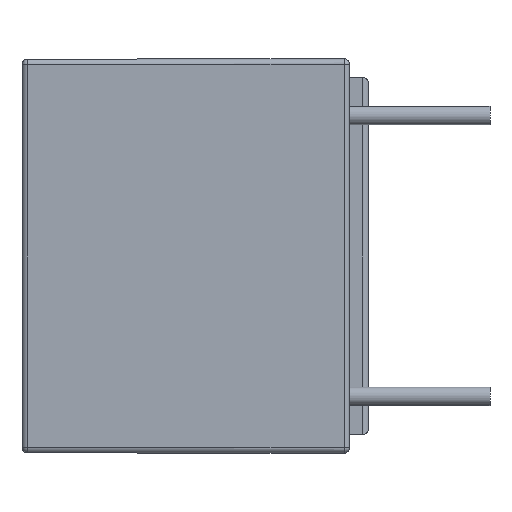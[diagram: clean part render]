
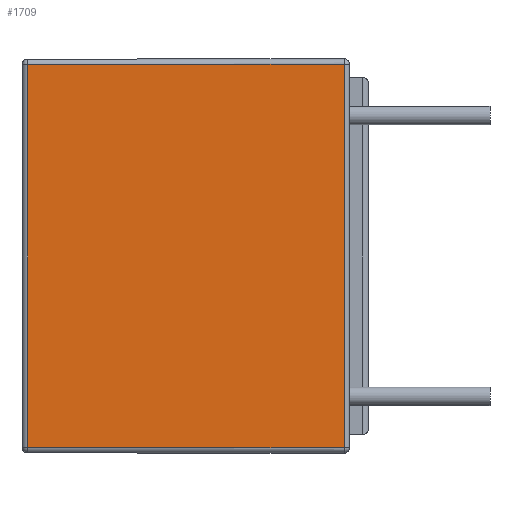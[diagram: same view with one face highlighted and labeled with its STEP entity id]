
A CAD part, left-side view. The second image highlights one B-rep face of the part: STEP entity #1709.
In plain terms, the highlighted planar face has unit normal (-1, 0.001, 0).
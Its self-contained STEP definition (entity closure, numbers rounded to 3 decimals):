
#1680 = EDGE_LOOP ( 'NONE', ( #1681, #1685, #1688, #1691 ) ) ;
#1681 = ORIENTED_EDGE ( 'NONE', *, *, #1682, .T. ) ;
#1682 = EDGE_CURVE ( 'NONE', #1683, #1684, #11771, .T. ) ;
#1683 = VERTEX_POINT ( 'NONE', #11767 ) ;
#1684 = VERTEX_POINT ( 'NONE', #11766 ) ;
#1685 = ORIENTED_EDGE ( 'NONE', *, *, #1686, .T. ) ;
#1686 = EDGE_CURVE ( 'NONE', #1684, #1687, #11765, .T. ) ;
#1687 = VERTEX_POINT ( 'NONE', #11761 ) ;
#1688 = ORIENTED_EDGE ( 'NONE', *, *, #1689, .T. ) ;
#1689 = EDGE_CURVE ( 'NONE', #1687, #1690, #11760, .T. ) ;
#1690 = VERTEX_POINT ( 'NONE', #11756 ) ;
#1691 = ORIENTED_EDGE ( 'NONE', *, *, #1692, .T. ) ;
#1692 = EDGE_CURVE ( 'NONE', #1690, #1683, #11754, .T. ) ;
#1709 = ADVANCED_FACE ( 'NONE', ( #11822 ), #11865, .T. ) ;
#11754 = LINE ( 'NONE', #11809, #11808 ) ;
#11756 = CARTESIAN_POINT ( 'NONE',  ( -9.4, 0.15, 5.2 ) ) ;
#11757 = DIRECTION ( 'NONE',  ( 0., 0., 1. ) ) ;
#11758 = VECTOR ( 'NONE', #11757, 1000. ) ;
#11759 = CARTESIAN_POINT ( 'NONE',  ( -9.4, 0.15, 5.35 ) ) ;
#11760 = LINE ( 'NONE', #11759, #11758 ) ;
#11761 = CARTESIAN_POINT ( 'NONE',  ( -9.4, 0.15, -5.2 ) ) ;
#11762 = DIRECTION ( 'NONE',  ( -0.001, -1., -0.001 ) ) ;
#11763 = VECTOR ( 'NONE', #11762, 1000. ) ;
#11764 = CARTESIAN_POINT ( 'NONE',  ( -9.4, 0.007, -5.2 ) ) ;
#11765 = LINE ( 'NONE', #11764, #11763 ) ;
#11766 = CARTESIAN_POINT ( 'NONE',  ( -9.394, 8.742, -5.194 ) ) ;
#11767 = CARTESIAN_POINT ( 'NONE',  ( -9.394, 8.742, 5.194 ) ) ;
#11768 = DIRECTION ( 'NONE',  ( 0., 0., -1. ) ) ;
#11769 = VECTOR ( 'NONE', #11768, 1000. ) ;
#11770 = CARTESIAN_POINT ( 'NONE',  ( -9.394, 8.742, -5.344 ) ) ;
#11771 = LINE ( 'NONE', #11770, #11769 ) ;
#11807 = DIRECTION ( 'NONE',  ( 0.001, 1., -0.001 ) ) ;
#11808 = VECTOR ( 'NONE', #11807, 1000. ) ;
#11809 = CARTESIAN_POINT ( 'NONE',  ( -9.4, 0., 5.2 ) ) ;
#11822 = FACE_OUTER_BOUND ( 'NONE', #1680, .T. ) ;
#11860 = DIRECTION ( 'NONE',  ( -0.001, -1., 0. ) ) ;
#11861 = DIRECTION ( 'NONE',  ( -1., 0.001, 0. ) ) ;
#11862 = CARTESIAN_POINT ( 'NONE',  ( -9.4, 0., 5.35 ) ) ;
#11863 = AXIS2_PLACEMENT_3D ( 'NONE', #11862, #11861, #11860 ) ;
#11865 = PLANE ( 'NONE',  #11863 ) ;
